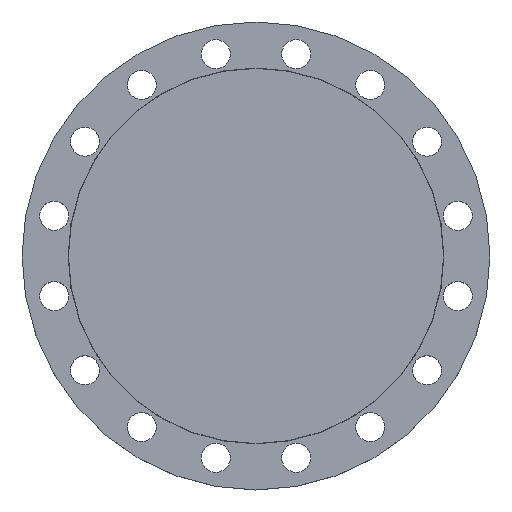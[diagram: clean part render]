
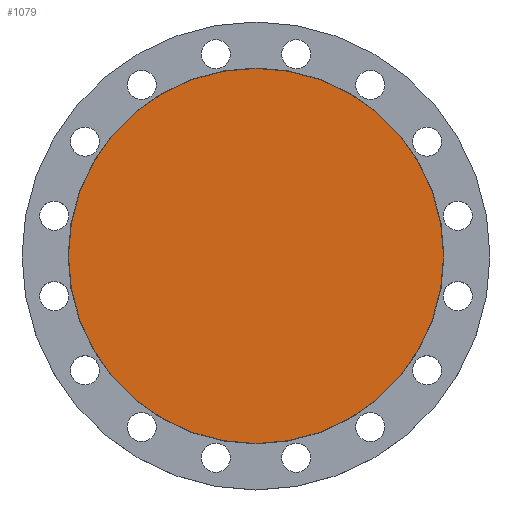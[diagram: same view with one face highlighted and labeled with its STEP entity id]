
A CAD part, top view. The second image highlights one B-rep face of the part: STEP entity #1079.
In plain terms, the highlighted planar face has unit normal (0, 0, 1).
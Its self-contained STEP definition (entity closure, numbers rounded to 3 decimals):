
#216 = DIRECTION ( 'NONE',  ( 1., 0., 0. ) ) ;
#218 = DIRECTION ( 'NONE',  ( 0., 0., 1. ) ) ;
#221 = CARTESIAN_POINT ( 'NONE',  ( 0., 0., 0. ) ) ;
#223 = PLANE ( 'NONE',  #528 ) ;
#225 = FACE_OUTER_BOUND ( 'NONE', #1348, .T. ) ;
#361 = CARTESIAN_POINT ( 'NONE',  ( -232.5, 0., 0. ) ) ;
#414 = EDGE_CURVE ( 'NONE', #715, #985, #805, .T. ) ;
#472 = CARTESIAN_POINT ( 'NONE',  ( 232.5, 0., 0. ) ) ;
#528 = AXIS2_PLACEMENT_3D ( 'NONE', #221, #218, #216 ) ;
#553 = DIRECTION ( 'NONE',  ( -1., 0., 0. ) ) ;
#554 = DIRECTION ( 'NONE',  ( 0., 0., -1. ) ) ;
#556 = CARTESIAN_POINT ( 'NONE',  ( 0., 0., 0. ) ) ;
#592 = DIRECTION ( 'NONE',  ( -1., 0., 0. ) ) ;
#596 = DIRECTION ( 'NONE',  ( 0., 0., -1. ) ) ;
#598 = CARTESIAN_POINT ( 'NONE',  ( 0., 0., 0. ) ) ;
#715 = VERTEX_POINT ( 'NONE', #472 ) ;
#736 = CIRCLE ( 'NONE', #764, 232.5 ) ;
#764 = AXIS2_PLACEMENT_3D ( 'NONE', #598, #596, #592 ) ;
#805 = CIRCLE ( 'NONE', #1252, 232.5 ) ;
#985 = VERTEX_POINT ( 'NONE', #361 ) ;
#1079 = ADVANCED_FACE ( 'NONE', ( #225 ), #223, .T. ) ;
#1205 = ORIENTED_EDGE ( 'NONE', *, *, #1471, .F. ) ;
#1240 = ORIENTED_EDGE ( 'NONE', *, *, #414, .F. ) ;
#1252 = AXIS2_PLACEMENT_3D ( 'NONE', #556, #554, #553 ) ;
#1348 = EDGE_LOOP ( 'NONE', ( #1205, #1240 ) ) ;
#1471 = EDGE_CURVE ( 'NONE', #985, #715, #736, .T. ) ;
